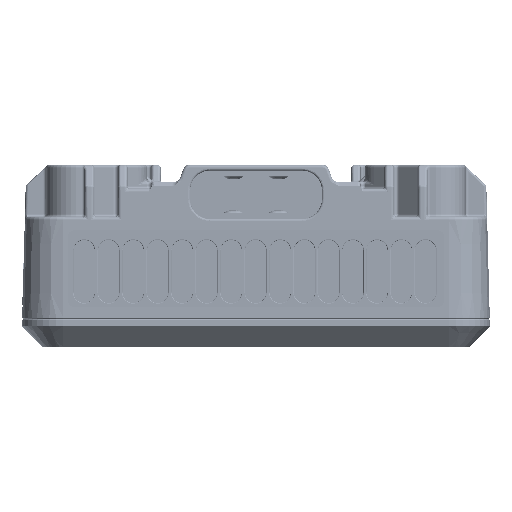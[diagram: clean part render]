
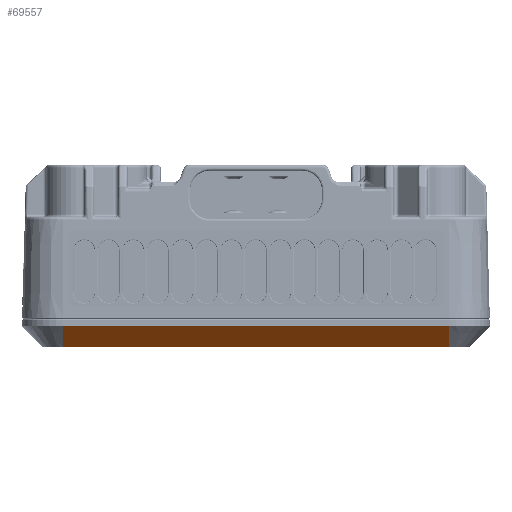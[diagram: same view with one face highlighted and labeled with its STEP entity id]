
A CAD part, left-side view. The second image highlights one B-rep face of the part: STEP entity #69557.
In plain terms, the highlighted planar face has unit normal (-0.716, 0, -0.698).
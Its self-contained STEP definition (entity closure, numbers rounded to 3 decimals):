
#2571=PLANE('',#74104);
#4017=FACE_OUTER_BOUND('',#8434,.T.);
#8434=EDGE_LOOP('',(#46310,#46311,#46312,#46313));
#17691=LINE('',#102108,#23165);
#17701=LINE('',#102142,#23175);
#17702=LINE('',#102145,#23176);
#17703=LINE('',#102146,#23177);
#23165=VECTOR('',#81076,10.);
#23175=VECTOR('',#81110,10.);
#23176=VECTOR('',#81115,10.);
#23177=VECTOR('',#81116,10.);
#28714=VERTEX_POINT('',#102106);
#28715=VERTEX_POINT('',#102107);
#28726=VERTEX_POINT('',#102139);
#28727=VERTEX_POINT('',#102141);
#35375=EDGE_CURVE('',#28714,#28715,#17691,.T.);
#35392=EDGE_CURVE('',#28727,#28726,#17701,.T.);
#35394=EDGE_CURVE('',#28726,#28714,#17702,.T.);
#35395=EDGE_CURVE('',#28715,#28727,#17703,.T.);
#46310=ORIENTED_EDGE('',*,*,#35392,.T.);
#46311=ORIENTED_EDGE('',*,*,#35394,.T.);
#46312=ORIENTED_EDGE('',*,*,#35375,.T.);
#46313=ORIENTED_EDGE('',*,*,#35395,.T.);
#69557=ADVANCED_FACE('',(#4017),#2571,.T.);
#74104=AXIS2_PLACEMENT_3D('',#102144,#81113,#81114);
#81076=DIRECTION('',(0.698,0.,-0.716));
#81110=DIRECTION('',(-0.698,0.,0.716));
#81113=DIRECTION('center_axis',(-0.716,0.,-0.698));
#81114=DIRECTION('ref_axis',(-0.698,0.,0.716));
#81115=DIRECTION('',(0.,1.,0.));
#81116=DIRECTION('',(0.,-1.,0.));
#102106=CARTESIAN_POINT('',(-16.711,13.75,1.499));
#102107=CARTESIAN_POINT('',(-15.25,13.75,0.));
#102108=CARTESIAN_POINT('',(-16.711,13.75,1.499));
#102139=CARTESIAN_POINT('',(-16.711,-13.75,1.499));
#102141=CARTESIAN_POINT('',(-15.25,-13.75,0.));
#102142=CARTESIAN_POINT('',(-15.25,-13.75,0.));
#102144=CARTESIAN_POINT('Origin',(-15.98,6.875,0.75));
#102145=CARTESIAN_POINT('',(-16.711,6.875,1.499));
#102146=CARTESIAN_POINT('',(-15.25,6.875,0.));
